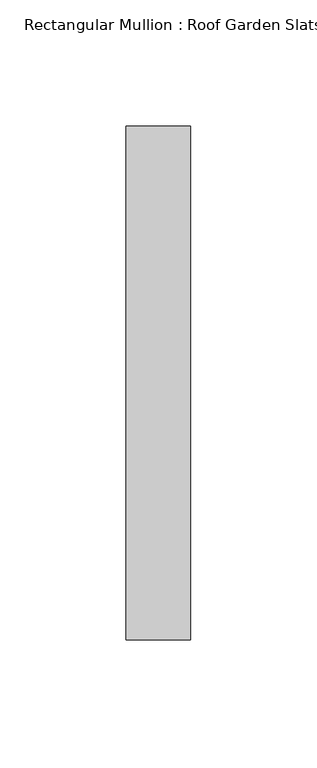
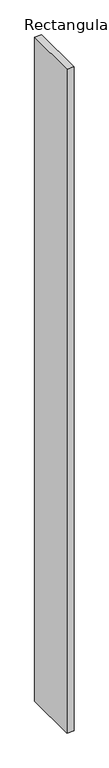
"""IFC4 building model written with IfcOpenShell, lengths in millimetres: member geometry, Rectangular Mullion : Roof Garden Slats."""

from ifc_helpers import new_model, si_unit, frame, origin, place, context, project, spatial, polyline, outline, extrude, source, transform, mapped, element, save


def rectangular_mullion_roof_garden_slats_68199ac3(model_context):
    return source(origin(), model_context, "Body", "SweptSolid", [
        extrude(outline(polyline([(12.7, 139.7), (12.7, -63.5), (-12.7, -63.5), (-12.7, 139.7), (12.7, 139.7)])), frame((0.0, 0.0, -2553.8544105), z_axis=(0.0, 0.0, 1.0), x_axis=(1.0, 0.0, 0.0)), (0.0, 0.0, 1.0), 2553.8544105),
    ])


if __name__ == "__main__":
    model = new_model("IFC4")
    model_context = context("Model", 3, world=origin())
    ifc_project = project(units=[si_unit("LENGTHUNIT", "METRE", prefix="MILLI")], contexts=[model_context])
    site = spatial("IfcSite", under=ifc_project)
    building = spatial("IfcBuilding", under=site)
    placement = place(None, origin())
    rectangular_mullion_roof_garden_slats_shape = rectangular_mullion_roof_garden_slats_68199ac3(model_context)
    element("IfcMember", 1, ObjectType="Rectangular Mullion : Roof Garden Slats", at=placement, inside=building, context=model_context, shape_type="MappedRepresentation", body=[
        mapped(rectangular_mullion_roof_garden_slats_shape, transform((0.0, 0.0, 0.0), x_axis=(1.0, 0.0, 0.0), y_axis=(0.0, 1.0, 0.0), z_axis=(0.0, 0.0, 1.0))),
    ])
    save(model, "model.ifc")
